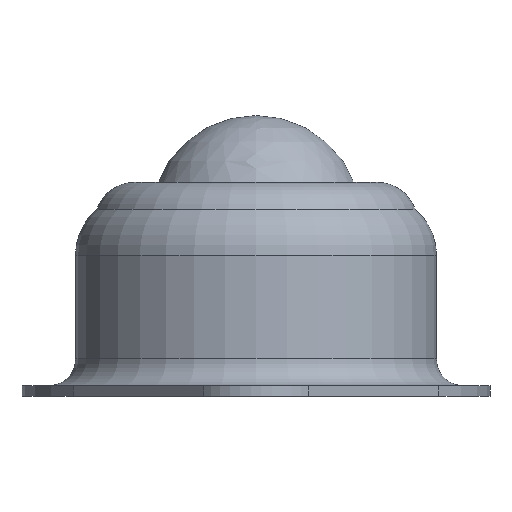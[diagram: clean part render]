
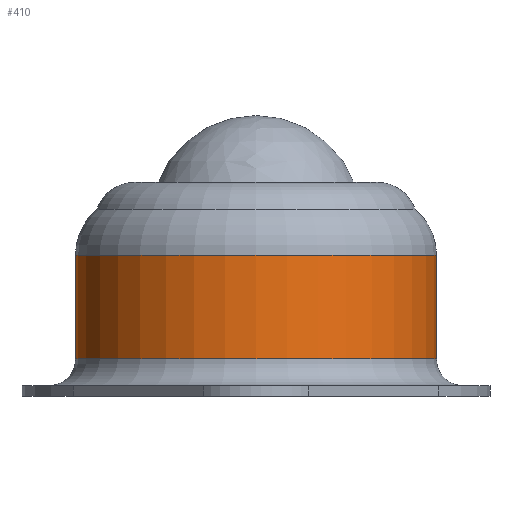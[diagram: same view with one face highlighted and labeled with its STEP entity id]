
A CAD part, left-side view. The second image highlights one B-rep face of the part: STEP entity #410.
In plain terms, the highlighted cylindrical face has radius 13.5 mm (diameter 27 mm), a full revolution.
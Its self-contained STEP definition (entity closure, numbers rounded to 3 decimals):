
#54=LINE('',#880,#74);
#74=VECTOR('',#584,13.5);
#90=CYLINDRICAL_SURFACE('',#481,13.5);
#106=FACE_OUTER_BOUND('',#134,.T.);
#134=EDGE_LOOP('',(#328,#329,#330,#331,#332,#333));
#169=CIRCLE('',#477,13.5);
#172=CIRCLE('',#480,13.5);
#173=CIRCLE('',#482,13.5);
#174=CIRCLE('',#483,13.5);
#207=VERTEX_POINT('',#868);
#208=VERTEX_POINT('',#869);
#210=VERTEX_POINT('',#876);
#211=VERTEX_POINT('',#877);
#251=EDGE_CURVE('',#207,#208,#169,.T.);
#254=EDGE_CURVE('',#208,#207,#172,.T.);
#255=EDGE_CURVE('',#210,#211,#173,.T.);
#256=EDGE_CURVE('',#211,#210,#174,.T.);
#257=EDGE_CURVE('',#211,#207,#54,.T.);
#328=ORIENTED_EDGE('',*,*,#255,.F.);
#329=ORIENTED_EDGE('',*,*,#256,.F.);
#330=ORIENTED_EDGE('',*,*,#257,.T.);
#331=ORIENTED_EDGE('',*,*,#254,.F.);
#332=ORIENTED_EDGE('',*,*,#251,.F.);
#333=ORIENTED_EDGE('',*,*,#257,.F.);
#410=ADVANCED_FACE('',(#106),#90,.T.);
#477=AXIS2_PLACEMENT_3D('',#870,#570,#571);
#480=AXIS2_PLACEMENT_3D('',#874,#576,#577);
#481=AXIS2_PLACEMENT_3D('',#875,#578,#579);
#482=AXIS2_PLACEMENT_3D('',#878,#580,#581);
#483=AXIS2_PLACEMENT_3D('',#879,#582,#583);
#570=DIRECTION('center_axis',(0.,0.,-1.));
#571=DIRECTION('ref_axis',(1.,0.,0.));
#576=DIRECTION('center_axis',(0.,0.,-1.));
#577=DIRECTION('ref_axis',(1.,0.,0.));
#578=DIRECTION('center_axis',(0.,0.,1.));
#579=DIRECTION('ref_axis',(1.,0.,0.));
#580=DIRECTION('center_axis',(0.,0.,1.));
#581=DIRECTION('ref_axis',(-1.,0.,0.));
#582=DIRECTION('center_axis',(0.,0.,1.));
#583=DIRECTION('ref_axis',(-1.,0.,0.));
#584=DIRECTION('',(0.,0.,-1.));
#868=CARTESIAN_POINT('',(-13.5,0.,2.8));
#869=CARTESIAN_POINT('',(13.5,0.,2.8));
#870=CARTESIAN_POINT('Origin',(0.,0.,2.8));
#874=CARTESIAN_POINT('Origin',(0.,0.,2.8));
#875=CARTESIAN_POINT('Origin',(0.,0.,0.));
#876=CARTESIAN_POINT('',(13.5,0.,10.559));
#877=CARTESIAN_POINT('',(-13.5,0.,10.559));
#878=CARTESIAN_POINT('Origin',(0.,0.,10.559));
#879=CARTESIAN_POINT('Origin',(0.,0.,10.559));
#880=CARTESIAN_POINT('',(-13.5,0.,0.));
